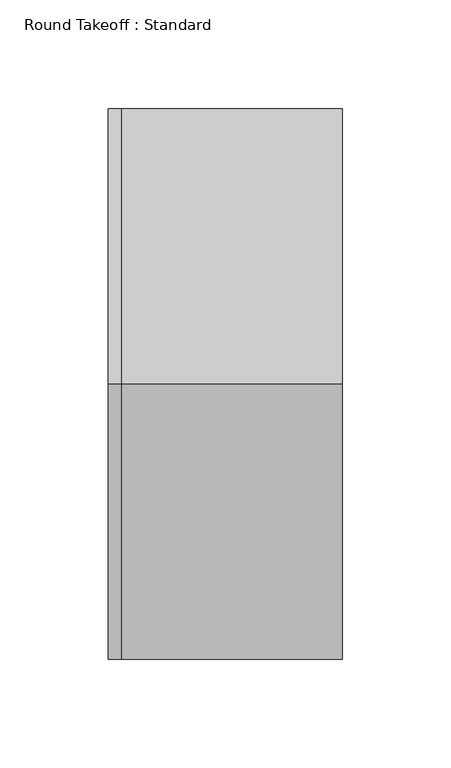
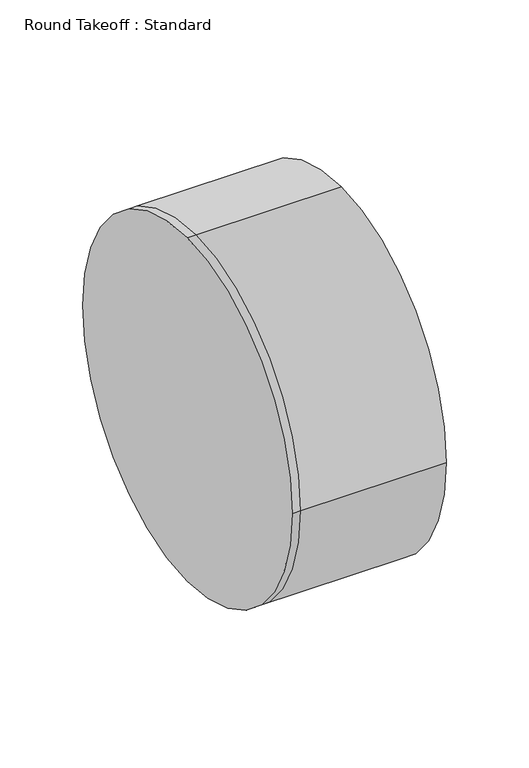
"""IFC4 building model written with IfcOpenShell, lengths in millimetres: duct fitting geometry, Round Takeoff : Standard."""

from ifc_helpers import new_model, si_unit, frame, origin, place, context, project, spatial, circle_curve, source, transform, mapped, element, save
from ifc_brep_helpers import plane_surface, cylinder_surface, advanced_brep


def round_takeoff_standard_86724b47(model_context):
    return source(origin(), model_context, "Body", "AdvancedBrep", [
        advanced_brep(
        [(101.6, 0.0, 127.0), (101.6, -127.0, 0.0), (101.6, 0.0, -127.0), (101.6, 127.0, 0.0), (0.0, 127.0, 0.0), (0.0, 0.0, 127.0), (0.0, 0.0, -127.0), (0.0, -127.0, 0.0), (-6.096, 0.0, 127.0), (-6.096, 127.0, 0.0), (-6.096, 0.0, -127.0), (-6.096, -127.0, 0.0)],
        [
            (0, 1, circle_curve(frame((101.6, 0.0, 0.0), z_axis=(1.0, 0.0, 0.0), x_axis=(0.0, 1.0, 0.0)), 127.0)),
            (1, 2, circle_curve(frame((101.6, 0.0, 0.0), z_axis=(1.0, 0.0, 0.0), x_axis=(0.0, 1.0, 0.0)), 127.0)),
            (2, 3, circle_curve(frame((101.6, 0.0, 0.0), z_axis=(1.0, 0.0, 0.0), x_axis=(0.0, 1.0, 0.0)), 127.0)),
            (3, 0, circle_curve(frame((101.6, 0.0, 0.0), z_axis=(1.0, 0.0, 0.0), x_axis=(0.0, 1.0, 0.0)), 127.0)),
            (3, 4),
            (4, 5, circle_curve(frame((0.0, 0.0, 0.0), z_axis=(1.0, 0.0, 0.0), x_axis=(0.0, 1.0, 0.0)), 127.0)),
            (5, 0),
            (2, 6),
            (6, 4, circle_curve(frame((0.0, 0.0, 0.0), z_axis=(1.0, 0.0, 0.0), x_axis=(0.0, 1.0, 0.0)), 127.0)),
            (1, 7),
            (7, 6, circle_curve(frame((0.0, 0.0, 0.0), z_axis=(1.0, 0.0, 0.0), x_axis=(0.0, 1.0, 0.0)), 127.0)),
            (5, 7, circle_curve(frame((0.0, 0.0, 0.0), z_axis=(1.0, 0.0, 0.0), x_axis=(0.0, 1.0, 0.0)), 127.0)),
            (8, 9, circle_curve(frame((-6.096, 0.0, 0.0), z_axis=(-1.0, 0.0, 0.0), x_axis=(0.0, 1.0, 0.0)), 127.0)),
            (9, 10, circle_curve(frame((-6.096, 0.0, 0.0), z_axis=(-1.0, 0.0, 0.0), x_axis=(0.0, 1.0, 0.0)), 127.0)),
            (10, 11, circle_curve(frame((-6.096, 0.0, 0.0), z_axis=(-1.0, 0.0, 0.0), x_axis=(0.0, 1.0, 0.0)), 127.0)),
            (11, 8, circle_curve(frame((-6.096, 0.0, 0.0), z_axis=(-1.0, 0.0, 0.0), x_axis=(0.0, 1.0, 0.0)), 127.0)),
            (8, 5),
            (4, 9),
            (6, 10),
            (7, 11),
        ],
        [
            plane_surface(frame((101.6, 0.0, 0.0), z_axis=(1.0, 0.0, 0.0), x_axis=(0.0, 0.0, 1.0))),
            cylinder_surface(frame((0.0, 0.0, 0.0), z_axis=(-1.0, 0.0, 0.0), x_axis=(0.0, 1.0, 0.0)), 127.0),
            plane_surface(frame((-6.096, 0.0, 0.0), z_axis=(-1.0, 0.0, 0.0), x_axis=(0.0, 0.0, 1.0))),
            cylinder_surface(frame((-6.096, 0.0, 0.0), z_axis=(-1.0, 0.0, 0.0), x_axis=(0.0, 1.0, 0.0)), 127.0),
        ],
        [
            (0, [[1, 2, 3, 4]]),
            (1, [[-4, 5, 6, 7]]),
            (1, [[-3, 8, 9, -5]]),
            (1, [[-2, 10, 11, -8]]),
            (1, [[-1, -7, 12, -10]]),
            (2, [[13, 14, 15, 16]]),
            (3, [[-13, 17, -6, 18]]),
            (3, [[-14, -18, -9, 19]]),
            (3, [[-15, -19, -11, 20]]),
            (3, [[-16, -20, -12, -17]]),
        ],
    ),
    ])


if __name__ == "__main__":
    model = new_model("IFC4")
    model_context = context("Model", 3, world=origin())
    ifc_project = project(units=[si_unit("LENGTHUNIT", "METRE", prefix="MILLI")], contexts=[model_context])
    site = spatial("IfcSite", under=ifc_project)
    building = spatial("IfcBuilding", under=site)
    placement = place(None, origin())
    round_takeoff_standard_shape = round_takeoff_standard_86724b47(model_context)
    element("IfcDuctFitting", 1, ObjectType="Round Takeoff : Standard", at=placement, inside=building, context=model_context, shape_type="MappedRepresentation", body=[
        mapped(round_takeoff_standard_shape, transform((0.0, 0.0, 0.0), x_axis=(1.0, 0.0, 0.0), y_axis=(0.0, 1.0, 0.0), z_axis=(0.0, 0.0, 1.0))),
    ])
    save(model, "model.ifc")
